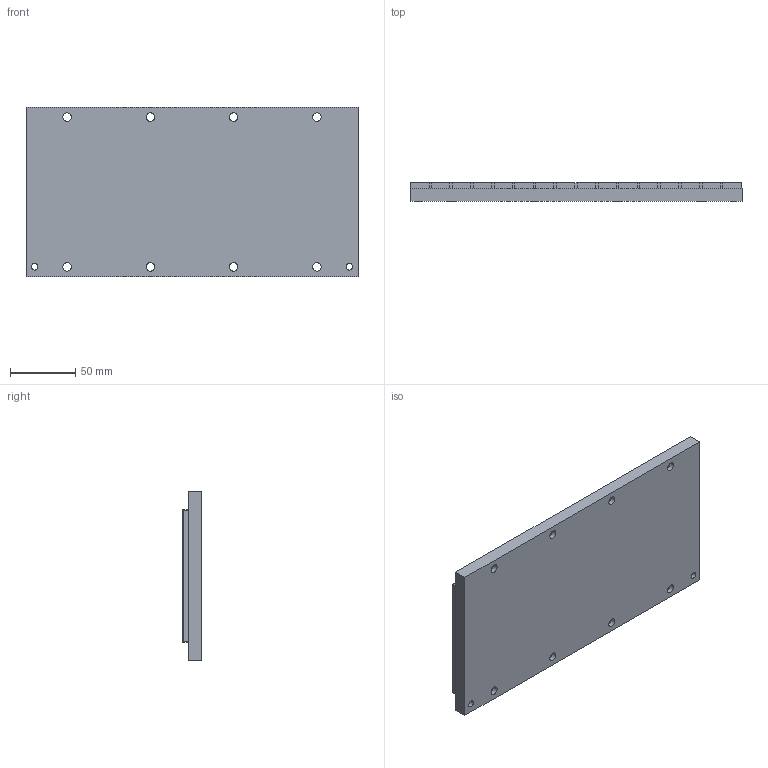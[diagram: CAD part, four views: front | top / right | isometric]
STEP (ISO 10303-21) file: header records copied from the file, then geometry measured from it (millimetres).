
FILE_DESCRIPTION((''),'2;1');
FILE_NAME('MC100-0256-WC','2007-01-14T',('saurabh.singhal'),(''),'PRO/ENGINEER BY PARAMETRIC TECHNOLOGY CORPORATION, 2005450','PRO/ENGINEER BY PARAMETRIC TECHNOLOGY CORPORATION, 2005450','');
FILE_SCHEMA(('CONFIG_CONTROL_DESIGN'));
Length unit declared in the file: millimetre
Products named in the file (1): MC100-0256-WC
Bounding box: 255.3 x 14.4 x 130 mm (x, y, z)
Volume: 424072.5 mm3; surface area: 147030.4 mm2
Topology: 1 solids, 1 shells, 138 faces, 336 edges, 224 vertices
Faces by surface type: plane 102, cylinder 36
Entity records: 4114 total; most frequent: CARTESIAN_POINT 698, DIRECTION 684, ORIENTED_EDGE 672, EDGE_CURVE 336, VECTOR 264, LINE 264, VERTEX_POINT 224, AXIS2_PLACEMENT_3D 210
